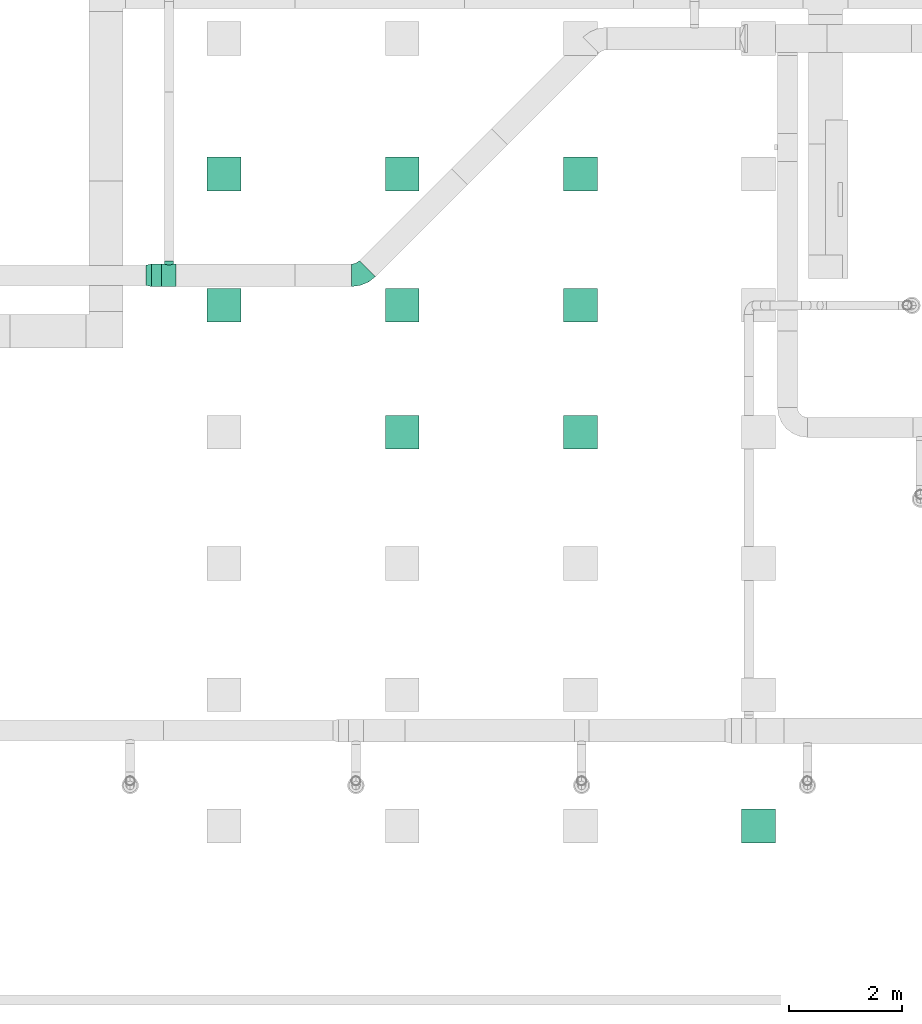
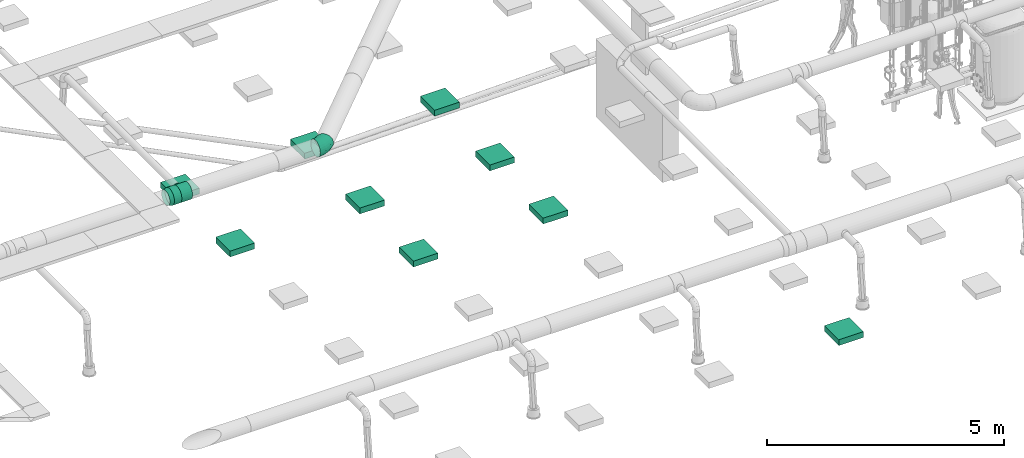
# One storey, part 64 of 374: 9 distribution elements, 3 flow fittings, 1 flow segment.
"""IFC2X3 building model written with IfcOpenShell, lengths in metres."""

from ifc_helpers import new_model, si_unit, direction, frame, frame_2d, origin, place, context, subcontext, project, spatial, rectangle, extrude, open_shell, surface_model, source, transform, mapped, element, save


model = new_model("IFC2X3")

# Units and contexts
model_context = context("Model", 3, precision=1e-05, world=origin(), true_north=direction((-0.4480736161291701, 0.8939966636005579)))
body_context = subcontext(model_context, "Body", "Model", "MODEL_VIEW")
ifc_project = project(units=[si_unit("LENGTHUNIT", "METRE"), si_unit("AREAUNIT", "SQUARE_METRE"), si_unit("VOLUMEUNIT", "CUBIC_METRE"), si_unit("PLANEANGLEUNIT", "RADIAN"), si_unit("THERMODYNAMICTEMPERATUREUNIT", "KELVIN"), si_unit("MASSUNIT", "GRAM", prefix="KILO"), si_unit("TIMEUNIT", "SECOND")], contexts=[model_context])

# Site, building, storey
site_placement = place(None, origin())
site = spatial("IfcSite", under=ifc_project, at=site_placement, Name="Site 1", CompositionType="ELEMENT")
building_placement = place(site_placement, origin())
building = spatial("IfcBuilding", under=site, at=building_placement, Name="Undefined", CompositionType="ELEMENT")
storey_placement = place(building_placement, origin())
storey = spatial("IfcBuildingStorey", under=building, at=storey_placement, Name="Rez de chauss\x8ee", CompositionType="ELEMENT", Elevation=0.0)

# Flow fitting
shared_shape_1 = source(origin(), body_context, "Body", "SurfaceModel", [
    surface_model("IfcFaceBasedSurfaceModel", [(0.0, 0.05221047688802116, -8.8817842e-16), (0.0, 0.0, 0.0), (0.2599999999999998, -7.105427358e-15, 0.0), (0.2599999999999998, 0.05221047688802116, -8.8817842e-16), (0.0, -0.05043144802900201, -0.013513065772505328), (0.2599999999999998, -0.05043144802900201, -0.013513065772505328), (0.0, -0.09564704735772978, -0.0396183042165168), (0.2599999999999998, -0.09564704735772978, -0.0396183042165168), (0.0, -0.1325654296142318, -0.07653668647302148), (0.2599999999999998, -0.1325654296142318, -0.07653668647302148), (0.0, -0.15867066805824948, -0.12175228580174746), (0.2599999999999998, -0.15867066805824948, -0.12175228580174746), (0.0, -0.17218373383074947, -0.17218373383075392), (0.2599999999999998, -0.17218373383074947, -0.17218373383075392), (0.0, -0.17218373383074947, -0.22439421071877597), (0.2599999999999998, -0.17218373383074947, -0.22439421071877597), (0.0, -0.15867066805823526, -0.2748256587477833), (0.2599999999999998, -0.15867066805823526, -0.2748256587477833), (0.0, -0.1325654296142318, -0.3200412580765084), (0.2599999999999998, -0.1325654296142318, -0.3200412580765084), (0.0, -0.09564704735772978, -0.35695964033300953), (0.2599999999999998, -0.09564704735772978, -0.35695964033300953), (0.0, -0.050431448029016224, -0.3830648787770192), (0.2599999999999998, -0.050431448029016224, -0.3830648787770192), (0.0, 0.0, -0.39657794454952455), (0.2599999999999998, 0.0, -0.39657794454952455), (0.0, 0.05221047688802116, -0.3965779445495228), (0.2599999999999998, 0.05221047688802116, -0.3965779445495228), (0.0, 0.10264192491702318, -0.38306487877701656), (0.2599999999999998, 0.10264192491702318, -0.38306487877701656), (0.0, 0.14785752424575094, -0.356959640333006), (0.2599999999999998, 0.14785752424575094, -0.356959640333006), (0.0, 0.18477590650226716, -0.32004125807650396), (0.2599999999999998, 0.18477590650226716, -0.32004125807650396), (0.0, 0.21088114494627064, -0.2748256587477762), (0.2599999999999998, 0.21088114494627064, -0.2748256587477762), (0.0, 0.22439421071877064, -0.22439421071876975), (0.2599999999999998, 0.22439421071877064, -0.22439421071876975), (0.0, 0.22439421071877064, -0.1721837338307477), (0.2599999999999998, 0.22439421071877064, -0.1721837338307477), (0.0, 0.21088114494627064, -0.12175228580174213), (0.2599999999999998, 0.21088114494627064, -0.12175228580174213), (0.0, 0.18477590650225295, -0.07653668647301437), (0.2599999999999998, 0.18477590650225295, -0.07653668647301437), (0.0, 0.14785752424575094, -0.03961830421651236), (0.2599999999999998, 0.14785752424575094, -0.03961830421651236), (0.0, 0.10264192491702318, -0.013513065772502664), (0.2599999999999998, 0.10264192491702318, -0.013513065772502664), (0.20999999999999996, 0.22439421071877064, -0.22439421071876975), (0.2072740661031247, 0.2206261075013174, -0.24478232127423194), (0.2072740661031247, 0.2712638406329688, -0.2514489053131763), (0.20999999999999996, 0.273966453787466, -0.23092052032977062), (0.19928203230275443, 0.21516691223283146, -0.263524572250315), (0.19928203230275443, 0.2687454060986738, -0.27057831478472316), (0.18656854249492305, 0.20891366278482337, -0.2794128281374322), (0.18656854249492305, 0.2665827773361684, -0.2870051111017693), (0.16999999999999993, 0.20307366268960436, -0.291467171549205), (0.16999999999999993, 0.26492333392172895, -0.29960983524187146), (0.15070552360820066, 0.19890954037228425, -0.2989799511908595), (0.15070552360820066, 0.26388016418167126, -0.307533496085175), (0.1299999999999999, 0.19739798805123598, -0.3015304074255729), (0.1299999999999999, 0.26352435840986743, -0.3102361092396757), (0.10929447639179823, 0.19890954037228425, -0.2989799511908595), (0.10929447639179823, 0.26388016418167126, -0.307533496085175), (0.08999999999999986, 0.20307366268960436, -0.291467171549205), (0.08999999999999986, 0.26492333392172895, -0.29960983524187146), (0.07343145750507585, 0.20891366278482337, -0.2794128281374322), (0.07343145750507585, 0.2665827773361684, -0.2870051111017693), (0.06071796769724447, 0.21516691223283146, -0.263524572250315), (0.06071796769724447, 0.2687454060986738, -0.27057831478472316), (0.05272593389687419, 0.2206261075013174, -0.24478232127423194), (0.05272593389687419, 0.2712638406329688, -0.2514489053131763), (0.04999999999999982, 0.22439421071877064, -0.22439421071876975), (0.04999999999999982, 0.273966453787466, -0.23092052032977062), (0.05272593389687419, 0.22603133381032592, -0.20372555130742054), (0.05272593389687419, 0.27666906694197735, -0.21039213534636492), (0.06071796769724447, 0.22560900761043, -0.18420898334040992), (0.06071796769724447, 0.27918750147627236, -0.19126272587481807), (0.07343145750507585, 0.2236810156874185, -0.16724364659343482), (0.07343145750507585, 0.28135013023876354, -0.17483592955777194), (0.08999999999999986, 0.22115990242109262, -0.1540885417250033), (0.08999999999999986, 0.2830095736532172, -0.16223120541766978), (0.10929447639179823, 0.2190821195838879, -0.14575399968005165), (0.10929447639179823, 0.2840527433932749, -0.15430754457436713), (0.1299999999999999, 0.2182821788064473, -0.14289922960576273), (0.1299999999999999, 0.28440854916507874, -0.15160493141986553), (0.15070552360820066, 0.2190821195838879, -0.14575399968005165), (0.15070552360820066, 0.2840527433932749, -0.15430754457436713), (0.16999999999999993, 0.22115990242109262, -0.1540885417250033), (0.16999999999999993, 0.2830095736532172, -0.16223120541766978), (0.18656854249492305, 0.2236810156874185, -0.16724364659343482), (0.18656854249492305, 0.28135013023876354, -0.17483592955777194), (0.19928203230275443, 0.22560900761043, -0.18420898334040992), (0.19928203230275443, 0.27918750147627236, -0.19126272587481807), (0.2072740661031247, 0.22603133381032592, -0.20372555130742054), (0.2072740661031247, 0.27666906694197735, -0.21039213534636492)], [open_shell([[[0, 1, 2, 3]], [[1, 4, 5, 2]], [[4, 6, 7, 5]], [[6, 8, 9, 7]], [[8, 10, 11, 9]], [[10, 12, 13, 11]], [[12, 14, 15, 13]], [[14, 16, 17, 15]], [[16, 18, 19, 17]], [[18, 20, 21, 19]], [[20, 22, 23, 21]], [[22, 24, 25, 23]], [[24, 26, 27, 25]], [[26, 28, 29, 27]], [[28, 30, 31, 29]], [[30, 32, 33, 31]], [[32, 34, 35, 33]], [[34, 36, 37, 35]], [[36, 38, 39, 37]], [[38, 40, 41, 39]], [[40, 42, 43, 41]], [[42, 44, 45, 43]], [[44, 46, 47, 45]], [[46, 0, 3, 47]], [[48, 49, 50, 51]], [[49, 52, 53, 50]], [[52, 54, 55, 53]], [[54, 56, 57, 55]], [[56, 58, 59, 57]], [[58, 60, 61, 59]], [[60, 62, 63, 61]], [[62, 64, 65, 63]], [[64, 66, 67, 65]], [[66, 68, 69, 67]], [[68, 70, 71, 69]], [[70, 72, 73, 71]], [[72, 74, 75, 73]], [[74, 76, 77, 75]], [[76, 78, 79, 77]], [[78, 80, 81, 79]], [[80, 82, 83, 81]], [[82, 84, 85, 83]], [[84, 86, 87, 85]], [[86, 88, 89, 87]], [[88, 90, 91, 89]], [[90, 92, 93, 91]], [[92, 94, 95, 93]], [[94, 48, 51, 95]]])]),
])
flow_fitting_1_placement = place(storey_placement, origin())
element("IfcFlowFitting", 1, at=flow_fitting_1_placement, inside=storey, Name="Pièce en té 90°", ObjectType="Pièce en té 90°", context=body_context, shape_type="MappedRepresentation", body=[
    mapped(shared_shape_1, transform((35.105995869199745, 10.867430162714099, 3.6068148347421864), x_axis=(-1.0, 0.0, 0.0), y_axis=(0.0, 0.9914448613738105, -0.13052619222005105), z_axis=(9.56658874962e-13, -0.13052619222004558, -0.9914448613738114))),
])

# Flow segment
shared_shape_2 = source(origin(), body_context, "Body", "SurfaceModel", [
    surface_model("IfcFaceBasedSurfaceModel", [(0.0, 0.05221047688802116, -8.8817842e-16), (0.0, 0.0, 0.0), (0.17999999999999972, 0.0, 4.4408921e-16), (0.17999999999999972, 0.05221047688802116, 0.0), (0.0, -0.05043144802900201, -0.013513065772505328), (0.17999999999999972, -0.050431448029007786, -0.013513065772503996), (0.0, -0.09564704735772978, -0.0396183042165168), (0.17999999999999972, -0.09564704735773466, -0.03961830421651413), (0.0, -0.1325654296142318, -0.07653668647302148), (0.17999999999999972, -0.13256542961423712, -0.07653668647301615), (0.0, -0.15867066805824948, -0.12175228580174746), (0.17999999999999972, -0.15867066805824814, -0.12175228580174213), (0.0, -0.17218373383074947, -0.17218373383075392), (0.17999999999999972, -0.17218373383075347, -0.17218373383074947), (0.0, -0.17218373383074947, -0.22439421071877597), (0.17999999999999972, -0.17218373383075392, -0.2243942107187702), (0.0, -0.15867066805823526, -0.2748256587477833), (0.17999999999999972, -0.15867066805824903, -0.27482565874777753), (0.0, -0.1325654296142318, -0.3200412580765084), (0.17999999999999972, -0.13256542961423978, -0.32004125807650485), (0.0, -0.09564704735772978, -0.35695964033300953), (0.17999999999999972, -0.09564704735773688, -0.3569596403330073), (0.0, -0.050431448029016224, -0.3830648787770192), (0.17999999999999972, -0.050431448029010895, -0.3830648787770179), (0.0, 0.0, -0.39657794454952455), (0.17999999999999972, -3.108624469e-15, -0.39657794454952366), (0.0, 0.05221047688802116, -0.3965779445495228), (0.17999999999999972, 0.052210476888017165, -0.39657794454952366), (0.0, 0.10264192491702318, -0.38306487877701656), (0.17999999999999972, 0.10264192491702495, -0.3830648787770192), (0.0, 0.14785752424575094, -0.356959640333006), (0.17999999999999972, 0.14785752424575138, -0.35695964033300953), (0.0, 0.18477590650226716, -0.32004125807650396), (0.17999999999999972, 0.18477590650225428, -0.32004125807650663), (0.0, 0.21088114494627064, -0.2748256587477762), (0.17999999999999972, 0.21088114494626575, -0.27482565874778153), (0.0, 0.22439421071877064, -0.22439421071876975), (0.17999999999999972, 0.2243942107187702, -0.22439421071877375), (0.0, 0.22439421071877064, -0.1721837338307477), (0.17999999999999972, 0.22439421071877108, -0.17218373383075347), (0.0, 0.21088114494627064, -0.12175228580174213), (0.17999999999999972, 0.2108811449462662, -0.12175228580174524), (0.0, 0.18477590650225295, -0.07653668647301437), (0.17999999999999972, 0.1847759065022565, -0.07653668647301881), (0.0, 0.14785752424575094, -0.03961830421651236), (0.17999999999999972, 0.14785752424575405, -0.03961830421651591), (0.0, 0.10264192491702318, -0.013513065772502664), (0.17999999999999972, 0.10264192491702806, -0.013513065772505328)], [open_shell([[[0, 1, 2, 3]], [[1, 4, 5, 2]], [[4, 6, 7, 5]], [[6, 8, 9, 7]], [[8, 10, 11, 9]], [[10, 12, 13, 11]], [[12, 14, 15, 13]], [[14, 16, 17, 15]], [[16, 18, 19, 17]], [[18, 20, 21, 19]], [[20, 22, 23, 21]], [[22, 24, 25, 23]], [[24, 26, 27, 25]], [[26, 28, 29, 27]], [[28, 30, 31, 29]], [[30, 32, 33, 31]], [[32, 34, 35, 33]], [[34, 36, 37, 35]], [[36, 38, 39, 37]], [[38, 40, 41, 39]], [[40, 42, 43, 41]], [[42, 44, 45, 43]], [[44, 46, 47, 45]], [[46, 0, 3, 47]]])]),
])
flow_segment_placement = place(storey_placement, origin())
element("IfcFlowSegment", 2, at=flow_segment_placement, inside=storey, Name="Manchon", ObjectType="Manchon", context=body_context, shape_type="MappedRepresentation", body=[
    mapped(shared_shape_2, transform((34.84599586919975, 10.970957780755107, 3.9931851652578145), x_axis=(-1.0, 0.0, 0.0), y_axis=(7.266545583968e-12, -0.9914448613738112, 0.13052619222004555), z_axis=(0.0, 0.13052619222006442, 0.9914448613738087))),
])

# Flow fittings
shared_shape_3 = source(origin(), body_context, "Body", "SurfaceModel", [
    surface_model("IfcFaceBasedSurfaceModel", [(0.0015398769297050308, 0.05218776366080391, 1.776356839e-15), (0.0, 0.0, 0.0), (0.09957534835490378, 8.8817842e-16, 1.776356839e-15), (0.10094198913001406, 0.04631664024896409, 1.776356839e-15), (0.0015398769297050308, -0.05049883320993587, -0.013169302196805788), (0.10094198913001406, -0.04481771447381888, -0.011687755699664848), (0.006054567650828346, -0.09586732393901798, -0.038610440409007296), (0.10494877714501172, -0.0850822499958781, -0.03426676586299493), (0.013236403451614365, -0.13301368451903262, -0.07458964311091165), (0.11132265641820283, -0.11804964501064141, -0.0661983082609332), (0.02259595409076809, -0.15940645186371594, -0.11865498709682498), (0.1196292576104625, -0.14147322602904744, -0.10530630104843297), (0.033495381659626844, -0.17324700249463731, -0.16780349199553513), (0.12930249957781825, -0.15375671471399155, -0.14892559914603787), (0.04519190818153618, -0.17359212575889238, -0.21868576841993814), (0.13968316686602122, -0.15406301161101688, -0.1940836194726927), (0.05688843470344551, -0.16041830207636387, -0.2678342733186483), (0.15006383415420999, -0.14237124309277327, -0.23770291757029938), (0.06778786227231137, -0.13462330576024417, -0.3118996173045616), (0.15973707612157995, -0.11947818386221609, -0.27681091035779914), (0.0771474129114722, -0.0979650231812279, -0.3478788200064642), (0.16804367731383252, -0.08694395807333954, -0.3087424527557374), (0.08432924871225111, -0.05294165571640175, -0.3733199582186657), (0.17441755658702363, -0.04698571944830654, -0.3313214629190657), (0.08884393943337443, -0.0026214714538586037, -0.3864892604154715), (0.17842434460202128, -0.002326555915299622, -0.34300921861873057), (0.09038381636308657, 0.049566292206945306, -0.3864892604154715), (0.17979098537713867, 0.04399008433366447, -0.34300921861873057), (0.08884393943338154, 0.10006512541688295, -0.3733199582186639), (0.17842434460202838, 0.08880779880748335, -0.33132146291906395), (0.08432924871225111, 0.14543361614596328, -0.3478788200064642), (0.17441755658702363, 0.12907233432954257, -0.30874245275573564), (0.0771474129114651, 0.1825799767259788, -0.31189961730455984), (0.16804367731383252, 0.16203972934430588, -0.2768109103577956), (0.06778786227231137, 0.20897274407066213, -0.26783427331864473), (0.15973707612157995, 0.1854633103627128, -0.23770291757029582), (0.05688843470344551, 0.2228132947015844, -0.2186857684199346), (0.15006383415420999, 0.19774679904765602, -0.1940836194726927), (0.04519190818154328, 0.22315841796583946, -0.16780349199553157), (0.13968316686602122, 0.19805309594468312, -0.14892559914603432), (0.03349538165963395, 0.20998459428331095, -0.1186549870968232), (0.12930249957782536, 0.18636132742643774, -0.10530630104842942), (0.02259595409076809, 0.18418959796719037, -0.0745896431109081), (0.1196292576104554, 0.16346826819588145, -0.06619830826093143), (0.013236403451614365, 0.147531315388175, -0.03861044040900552), (0.11132265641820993, 0.1309340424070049, -0.03426676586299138), (0.006054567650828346, 0.10250794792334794, -0.013169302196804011), (0.10494877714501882, 0.09097580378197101, -0.011687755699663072)], [open_shell([[[0, 1, 2, 3]], [[1, 4, 5, 2]], [[4, 6, 7, 5]], [[6, 8, 9, 7]], [[8, 10, 11, 9]], [[10, 12, 13, 11]], [[12, 14, 15, 13]], [[14, 16, 17, 15]], [[16, 18, 19, 17]], [[18, 20, 21, 19]], [[20, 22, 23, 21]], [[22, 24, 25, 23]], [[24, 26, 27, 25]], [[26, 28, 29, 27]], [[28, 30, 31, 29]], [[30, 32, 33, 31]], [[32, 34, 35, 33]], [[34, 36, 37, 35]], [[36, 38, 39, 37]], [[38, 40, 41, 39]], [[40, 42, 43, 41]], [[42, 44, 45, 43]], [[44, 46, 47, 45]], [[46, 0, 3, 47]]])]),
])
flow_fitting_2_placement = place(storey_placement, origin())
element("IfcFlowFitting", 3, at=flow_fitting_2_placement, inside=storey, Name="Réduction conique", ObjectType="Réduction conique", context=body_context, shape_type="MappedRepresentation", body=[
    mapped(shared_shape_3, transform((34.66599586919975, 11.112379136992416, 3.7482361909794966), x_axis=(-0.9741366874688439, -0.2182601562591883, 0.05848263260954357), y_axis=(0.02874333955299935, 0.13702308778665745, 0.9901507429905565), z_axis=(-0.22412392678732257, 0.9662231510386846, -0.12720569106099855))),
])
shared_shape_4 = source(origin(), body_context, "Body", "SurfaceModel", [
    surface_model("IfcFaceBasedSurfaceModel", [(0.15663143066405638, 0.0, 0.0), (0.1557419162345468, 0.05220289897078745, 3.552713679e-15), (0.0008895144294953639, 0.05220289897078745, 3.552713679e-15), (0.0, 0.0, 0.0), (-0.14868641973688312, 0.057390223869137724, -0.03974163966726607), (-0.15129434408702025, 0.005246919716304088, -0.04019821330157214), (-0.2827925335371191, 0.06741136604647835, -0.11651659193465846), (-0.28694114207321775, 0.01538319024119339, -0.11785519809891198), (0.15313399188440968, 0.10259722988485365, -0.013399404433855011), (0.0034974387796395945, 0.10259722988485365, -0.013399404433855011), (-0.14104037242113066, 0.10760983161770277, -0.05180243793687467), (-0.2706294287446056, 0.11729343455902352, -0.12599140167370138), (0.1489853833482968, 0.14774870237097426, -0.03928506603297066), (0.007646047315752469, 0.14774870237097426, -0.03928506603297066), (-0.1288772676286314, 0.1524833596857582, -0.07555868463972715), (-0.25128072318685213, 0.161630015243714, -0.14563393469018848), (0.14357881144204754, 0.18458031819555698, -0.07589291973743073), (0.013052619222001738, 0.18458031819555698, -0.07589291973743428), (-0.1130260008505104, 0.18895275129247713, -0.10939143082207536), (-0.2260649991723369, 0.19739964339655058, -0.17410558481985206), (0.1372827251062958, 0.2105820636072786, -0.1207282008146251), (0.019348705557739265, 0.2105820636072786, -0.12072820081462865), (-0.0945668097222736, 0.21453267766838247, -0.15099503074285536), (-0.19670066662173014, 0.22216467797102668, -0.20946605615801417), (0.1305261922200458, 0.22398196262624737, -0.1707354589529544), (0.02610523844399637, 0.22398196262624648, -0.17073545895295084), (-0.07475765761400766, 0.22747990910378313, -0.19753426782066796), (-0.1651888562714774, 0.23423742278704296, -0.2493055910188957), (0.1237696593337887, 0.22386683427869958, -0.22250678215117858), (0.032861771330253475, 0.22386683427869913, -0.22250678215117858), (-0.05494850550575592, 0.22691211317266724, -0.24583756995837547), (-0.13367704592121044, 0.23279514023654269, -0.2909091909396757), (0.11747357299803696, 0.21024452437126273, -0.2725140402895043), (0.039157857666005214, 0.21024452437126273, -0.2725140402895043), (-0.03648931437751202, 0.2128679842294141, -0.29261314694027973), (-0.10431271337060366, 0.21793611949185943, -0.33144163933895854), (0.1120670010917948, 0.1840433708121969, -0.31734932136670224), (0.04456442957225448, 0.18404337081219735, -0.3173493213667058), (-0.020638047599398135, 0.1863046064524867, -0.33467332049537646), (-0.07909698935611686, 0.19067297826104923, -0.3681407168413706), (0.10791839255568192, 0.14704893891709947, -0.35395717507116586), (0.04871303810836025, 0.14704893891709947, -0.3539571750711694), (-0.008474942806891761, 0.1490322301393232, -0.3691517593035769), (-0.05974828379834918, 0.15286365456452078, -0.39850544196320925), (0.10531046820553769, 0.10178233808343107, -0.3798428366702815), (0.05132096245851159, 0.10178233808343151, -0.3798428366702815), (-0.0008288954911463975, 0.1035909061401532, -0.3936988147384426), (-0.04758517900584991, 0.1070847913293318, -0.4204665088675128), (0.10442095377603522, 0.05132841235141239, -0.3932422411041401), (0.052210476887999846, 0.05132841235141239, -0.3932422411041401), (0.0017790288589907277, 0.05307738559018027, -0.4066416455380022), (-0.043436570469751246, 0.056456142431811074, -0.4325273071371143), (0.10531046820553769, -0.0008744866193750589, -0.39324224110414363), (0.05132096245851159, -0.0008744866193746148, -0.39324224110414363), (-0.0008288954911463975, 0.0009340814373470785, -0.4070982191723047), (-0.04758517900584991, 0.00442796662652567, -0.4338659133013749), (0.10791839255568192, -0.051268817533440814, -0.3798428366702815), (0.04871303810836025, -0.051268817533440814, -0.37984283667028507), (-0.008474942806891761, -0.049285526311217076, -0.39503742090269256), (-0.05974828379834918, -0.045454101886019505, -0.4243911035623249), (0.1120670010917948, -0.09642029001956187, -0.35395717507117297), (0.04456442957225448, -0.09642029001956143, -0.3539571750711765), (-0.020638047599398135, -0.09415905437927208, -0.3712811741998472), (-0.07909698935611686, -0.08979068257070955, -0.40474857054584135), (0.11747357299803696, -0.1332519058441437, -0.31734932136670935), (0.039157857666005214, -0.1332519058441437, -0.31734932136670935), (-0.03648931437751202, -0.13062844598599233, -0.33744842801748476), (-0.10431271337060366, -0.125560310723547, -0.37627692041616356), (0.1237696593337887, -0.15925365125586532, -0.27251404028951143), (0.032861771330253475, -0.15925365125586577, -0.27251404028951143), (-0.05494850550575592, -0.15620837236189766, -0.2958448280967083), (-0.13367704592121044, -0.15032534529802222, -0.34091644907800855), (0.1305261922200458, -0.17265355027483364, -0.22250678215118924), (0.02610523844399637, -0.17265355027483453, -0.2225067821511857), (-0.07475765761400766, -0.16915560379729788, -0.24930559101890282), (-0.1651888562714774, -0.16239809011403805, -0.30107691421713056), (0.1372827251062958, -0.17253842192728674, -0.17073545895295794), (0.019348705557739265, -0.17253842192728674, -0.1707354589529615), (-0.0945668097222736, -0.16858780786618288, -0.2010022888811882), (-0.19670066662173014, -0.16095580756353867, -0.259473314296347), (0.14357881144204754, -0.15891611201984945, -0.12072820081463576), (0.013052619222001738, -0.15891611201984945, -0.12072820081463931), (-0.1130260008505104, -0.1545436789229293, -0.1542267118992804), (-0.2260649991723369, -0.14609678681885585, -0.21894086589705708), (0.1489853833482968, -0.13271495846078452, -0.07589291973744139), (0.007646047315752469, -0.13271495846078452, -0.07589291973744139), (-0.1288772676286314, -0.12798030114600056, -0.11216653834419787), (-0.25128072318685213, -0.11883364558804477, -0.1822417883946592), (0.15313399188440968, -0.09572052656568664, -0.03928506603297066), (0.0034974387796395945, -0.09572052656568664, -0.03928506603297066), (-0.14104037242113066, -0.09070792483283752, -0.07768809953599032), (-0.2706294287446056, -0.08102432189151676, -0.15187706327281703), (0.1557419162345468, -0.05045392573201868, -0.013399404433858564), (0.0008895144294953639, -0.05045392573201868, -0.013399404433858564), (-0.14868641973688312, -0.0452666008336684, -0.05314104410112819), (-0.2827925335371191, -0.03524545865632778, -0.12991599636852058)], [open_shell([[[0, 1, 2, 3]], [[3, 2, 4, 5]], [[5, 4, 6, 7]], [[1, 8, 9, 2]], [[2, 9, 10, 4]], [[4, 10, 11, 6]], [[8, 12, 13, 9]], [[9, 13, 14, 10]], [[10, 14, 15, 11]], [[12, 16, 17, 13]], [[13, 17, 18, 14]], [[14, 18, 19, 15]], [[16, 20, 21, 17]], [[17, 21, 22, 18]], [[18, 22, 23, 19]], [[20, 24, 25, 21]], [[21, 25, 26, 22]], [[22, 26, 27, 23]], [[24, 28, 29, 25]], [[25, 29, 30, 26]], [[26, 30, 31, 27]], [[28, 32, 33, 29]], [[29, 33, 34, 30]], [[30, 34, 35, 31]], [[32, 36, 37, 33]], [[33, 37, 38, 34]], [[34, 38, 39, 35]], [[36, 40, 41, 37]], [[37, 41, 42, 38]], [[38, 42, 43, 39]], [[40, 44, 45, 41]], [[41, 45, 46, 42]], [[42, 46, 47, 43]], [[44, 48, 49, 45]], [[45, 49, 50, 46]], [[46, 50, 51, 47]], [[48, 52, 53, 49]], [[49, 53, 54, 50]], [[50, 54, 55, 51]], [[52, 56, 57, 53]], [[53, 57, 58, 54]], [[54, 58, 59, 55]], [[56, 60, 61, 57]], [[57, 61, 62, 58]], [[58, 62, 63, 59]], [[60, 64, 65, 61]], [[61, 65, 66, 62]], [[62, 66, 67, 63]], [[64, 68, 69, 65]], [[65, 69, 70, 66]], [[66, 70, 71, 67]], [[68, 72, 73, 69]], [[69, 73, 74, 70]], [[70, 74, 75, 71]], [[72, 76, 77, 73]], [[73, 77, 78, 74]], [[74, 78, 79, 75]], [[76, 80, 81, 77]], [[77, 81, 82, 78]], [[78, 82, 83, 79]], [[80, 84, 85, 81]], [[81, 85, 86, 82]], [[82, 86, 87, 83]], [[84, 88, 89, 85]], [[85, 89, 90, 86]], [[86, 90, 91, 87]], [[88, 92, 93, 89]], [[89, 93, 94, 90]], [[90, 94, 95, 91]], [[92, 0, 3, 93]], [[93, 3, 5, 94]], [[94, 5, 7, 95]]])]),
])
flow_fitting_3_placement = place(storey_placement, origin())
element("IfcFlowFitting", 4, at=flow_fitting_3_placement, inside=storey, Name="Coude", ObjectType="Coude", context=body_context, shape_type="MappedRepresentation", body=[
    mapped(shared_shape_4, transform((38.51138707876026, 10.799578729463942, 3.8000000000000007), x_axis=(0.7933533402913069, 0.6087614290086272, 0.0), y_axis=(-0.07879096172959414, 0.10268238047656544, 0.9915887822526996), z_axis=(0.6036410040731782, -0.7866802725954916, 0.12942830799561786))),
])

# Distribution elements
distribution_element_1_placement = place(storey_placement, origin())
element("IfcDistributionElement", 5, at=distribution_element_1_placement, inside=storey, Name="Decken-Rechteckleuchte mit Rahmen AP", ObjectType="Decken-Rechteckleuchte mit Rahmen AP", context=body_context, shape_type="SweptSolid", body=[
    extrude(rectangle(XDim=0.6000000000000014, YDim=0.6000000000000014, at=frame_2d((3.552713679e-15, 0.0), x_axis=(0.0, 1.0))), frame((35.95181062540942, 10.3875, 2.5500000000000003), z_axis=(0.0, 0.0, -1.0), x_axis=(1.0, 0.0, 0.0)), (0.0, 0.0, 1.0), 0.15),
])
distribution_element_2_placement = place(storey_placement, origin())
element("IfcDistributionElement", 6, at=distribution_element_2_placement, inside=storey, Name="Decken-Rechteckleuchte mit Rahmen AP", ObjectType="Decken-Rechteckleuchte mit Rahmen AP", context=body_context, shape_type="SweptSolid", body=[
    extrude(rectangle(XDim=0.6000000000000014, YDim=0.6000000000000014, at=frame_2d((3.552713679e-15, 0.0), x_axis=(0.0, 1.0))), frame((39.109652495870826, 12.712499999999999, 2.5500000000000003), z_axis=(0.0, 0.0, -1.0), x_axis=(1.0, 0.0, 0.0)), (0.0, 0.0, 1.0), 0.15),
])
distribution_element_3_placement = place(storey_placement, origin())
element("IfcDistributionElement", 7, at=distribution_element_3_placement, inside=storey, Name="Decken-Rechteckleuchte mit Rahmen AP", ObjectType="Decken-Rechteckleuchte mit Rahmen AP", context=body_context, shape_type="SweptSolid", body=[
    extrude(rectangle(XDim=0.6000000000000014, YDim=0.6000000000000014, at=frame_2d((3.552713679e-15, 0.0), x_axis=(0.0, 1.0))), frame((39.109652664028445, 8.1375, 2.5500000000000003), z_axis=(0.0, 0.0, -1.0), x_axis=(1.0, 0.0, 0.0)), (0.0, 0.0, 1.0), 0.15),
])
distribution_element_4_placement = place(storey_placement, origin())
element("IfcDistributionElement", 8, at=distribution_element_4_placement, inside=storey, Name="Decken-Rechteckleuchte mit Rahmen AP", ObjectType="Decken-Rechteckleuchte mit Rahmen AP", context=body_context, shape_type="SweptSolid", body=[
    extrude(rectangle(XDim=0.6000000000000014, YDim=0.6000000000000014, at=frame_2d((3.552713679e-15, 0.0), x_axis=(0.0, 1.0))), frame((45.42533751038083, 1.1625, 2.5500000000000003), z_axis=(0.0, 0.0, -1.0), x_axis=(1.0, 0.0, 0.0)), (0.0, 0.0, 1.0), 0.15),
])
distribution_element_5_placement = place(storey_placement, origin())
element("IfcDistributionElement", 9, at=distribution_element_5_placement, inside=storey, Name="Decken-Rechteckleuchte mit Rahmen AP", ObjectType="Decken-Rechteckleuchte mit Rahmen AP", context=body_context, shape_type="SweptSolid", body=[
    extrude(rectangle(XDim=0.6000000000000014, YDim=0.6000000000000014, at=frame_2d((3.552713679e-15, 0.0), x_axis=(0.0, 1.0))), frame((42.26749479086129, 12.712499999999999, 2.5500000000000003), z_axis=(0.0, 0.0, -1.0), x_axis=(1.0, 0.0, 0.0)), (0.0, 0.0, 1.0), 0.15),
])
distribution_element_6_placement = place(storey_placement, origin())
element("IfcDistributionElement", 10, at=distribution_element_6_placement, inside=storey, Name="Decken-Rechteckleuchte mit Rahmen AP", ObjectType="Decken-Rechteckleuchte mit Rahmen AP", context=body_context, shape_type="SweptSolid", body=[
    extrude(rectangle(XDim=0.6000000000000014, YDim=0.6000000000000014, at=frame_2d((3.552713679e-15, 0.0), x_axis=(0.0, 1.0))), frame((42.267494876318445, 10.3875, 2.5500000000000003), z_axis=(0.0, 0.0, -1.0), x_axis=(1.0, 0.0, 0.0)), (0.0, 0.0, 1.0), 0.15),
])
distribution_element_7_placement = place(storey_placement, origin())
element("IfcDistributionElement", 11, at=distribution_element_7_placement, inside=storey, Name="Decken-Rechteckleuchte mit Rahmen AP", ObjectType="Decken-Rechteckleuchte mit Rahmen AP", context=body_context, shape_type="SweptSolid", body=[
    extrude(rectangle(XDim=0.6000000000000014, YDim=0.6000000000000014, at=frame_2d((3.552713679e-15, 0.0), x_axis=(0.0, 1.0))), frame((42.26749495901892, 8.1375, 2.5500000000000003), z_axis=(0.0, 0.0, -1.0), x_axis=(1.0, 0.0, 0.0)), (0.0, 0.0, 1.0), 0.15),
])
distribution_element_8_placement = place(storey_placement, origin())
element("IfcDistributionElement", 12, at=distribution_element_8_placement, inside=storey, Name="Decken-Rechteckleuchte mit Rahmen AP", ObjectType="Decken-Rechteckleuchte mit Rahmen AP", context=body_context, shape_type="SweptSolid", body=[
    extrude(rectangle(XDim=0.6000000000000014, YDim=0.6000000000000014, at=frame_2d((3.552713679e-15, 0.0), x_axis=(0.0, 1.0))), frame((39.10965258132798, 10.3875, 2.5500000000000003), z_axis=(0.0, 0.0, -1.0), x_axis=(1.0, 0.0, 0.0)), (0.0, 0.0, 1.0), 0.15),
])
distribution_element_9_placement = place(storey_placement, origin())
element("IfcDistributionElement", 13, at=distribution_element_9_placement, inside=storey, Name="Decken-Rechteckleuchte mit Rahmen AP", ObjectType="Decken-Rechteckleuchte mit Rahmen AP", context=body_context, shape_type="SweptSolid", body=[
    extrude(rectangle(XDim=0.6000000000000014, YDim=0.6000000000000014, at=frame_2d((3.552713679e-15, 0.0), x_axis=(0.0, 1.0))), frame((35.95181062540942, 12.712499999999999, 2.5500000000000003), z_axis=(0.0, 0.0, -1.0), x_axis=(1.0, 0.0, 0.0)), (0.0, 0.0, 1.0), 0.15),
])

save(model, "model.ifc")
